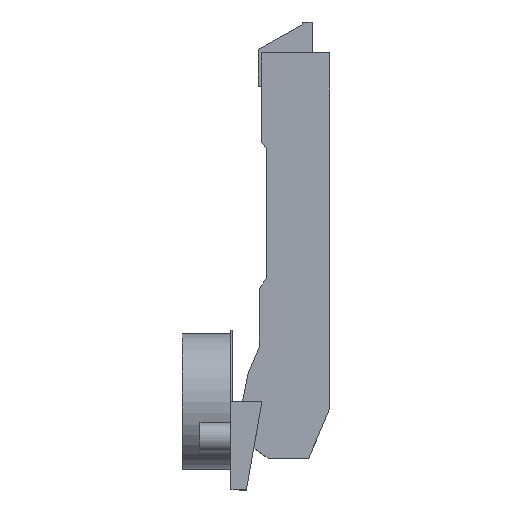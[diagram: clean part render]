
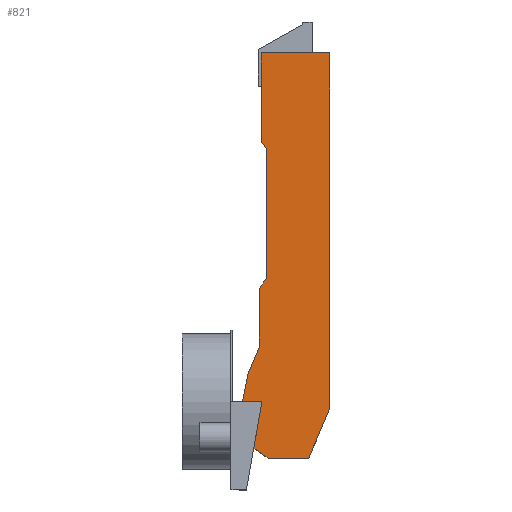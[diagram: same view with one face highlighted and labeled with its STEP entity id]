
A CAD part, top view. The second image highlights one B-rep face of the part: STEP entity #821.
In plain terms, the highlighted planar face has unit normal (0, 0, 1).
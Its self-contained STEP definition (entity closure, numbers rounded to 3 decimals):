
#14 = VERTEX_POINT ( 'NONE', #107 ) ;
#15 = VERTEX_POINT ( 'NONE', #108 ) ;
#16 = VERTEX_POINT ( 'NONE', #109 ) ;
#19 = VERTEX_POINT ( 'NONE', #112 ) ;
#20 = VERTEX_POINT ( 'NONE', #113 ) ;
#21 = VERTEX_POINT ( 'NONE', #114 ) ;
#25 = VERTEX_POINT ( 'NONE', #118 ) ;
#26 = VERTEX_POINT ( 'NONE', #119 ) ;
#27 = VERTEX_POINT ( 'NONE', #120 ) ;
#35 = VERTEX_POINT ( 'NONE', #128 ) ;
#37 = VERTEX_POINT ( 'NONE', #130 ) ;
#38 = VERTEX_POINT ( 'NONE', #131 ) ;
#39 = VERTEX_POINT ( 'NONE', #132 ) ;
#42 = VERTEX_POINT ( 'NONE', #135 ) ;
#45 = VERTEX_POINT ( 'NONE', #138 ) ;
#107 = CARTESIAN_POINT ( 'NONE',  ( -0.3, 0., 8.5 ) ) ;
#108 = CARTESIAN_POINT ( 'NONE',  ( 6.295, -14.594, 8.5 ) ) ;
#109 = CARTESIAN_POINT ( 'NONE',  ( 1.11, 7.296, 8.5 ) ) ;
#112 = CARTESIAN_POINT ( 'NONE',  ( 4.711, 0., 8.5 ) ) ;
#113 = CARTESIAN_POINT ( 'NONE',  ( 3.01, -12.294, 8.5 ) ) ;
#114 = CARTESIAN_POINT ( 'NONE',  ( 4.5, 90.1, 8.5 ) ) ;
#118 = CARTESIAN_POINT ( 'NONE',  ( 16.783, -14.594, 8.5 ) ) ;
#119 = CARTESIAN_POINT ( 'NONE',  ( 2.544, -12.294, 8.5 ) ) ;
#120 = CARTESIAN_POINT ( 'NONE',  ( 22.25, -1.744, 8.5 ) ) ;
#128 = CARTESIAN_POINT ( 'NONE',  ( 6., 65.1, 8.5 ) ) ;
#130 = CARTESIAN_POINT ( 'NONE',  ( 4.01, 29.266, 8.5 ) ) ;
#131 = CARTESIAN_POINT ( 'NONE',  ( 6., 32.108, 8.5 ) ) ;
#132 = CARTESIAN_POINT ( 'NONE',  ( 22.25, 90.1, 8.5 ) ) ;
#135 = CARTESIAN_POINT ( 'NONE',  ( 4.01, 14.096, 8.5 ) ) ;
#138 = CARTESIAN_POINT ( 'NONE',  ( 4.5, 67.242, 8.5 ) ) ;
#407 = CARTESIAN_POINT ( 'NONE',  ( -0.3, -12.294, 8.5 ) ) ;
#408 = PLANE ( 'NONE',  #1761 ) ;
#410 = DIRECTION ( 'NONE',  ( 0., 0., 1. ) ) ;
#411 = DIRECTION ( 'NONE',  ( 0., -1., 0. ) ) ;
#432 = CARTESIAN_POINT ( 'NONE',  ( 4.01, 29.266, 8.5 ) ) ;
#437 = CARTESIAN_POINT ( 'NONE',  ( 4.01, 14.096, 8.5 ) ) ;
#438 = DIRECTION ( 'NONE',  ( 0., -1., 0. ) ) ;
#440 = DIRECTION ( 'NONE',  ( -0.574, -0.819, 0. ) ) ;
#489 = CARTESIAN_POINT ( 'NONE',  ( 6.295, -14.594, 8.5 ) ) ;
#493 = DIRECTION ( 'NONE',  ( 1., 0., 0. ) ) ;
#494 = CARTESIAN_POINT ( 'NONE',  ( 3.01, -12.294, 8.5 ) ) ;
#495 = DIRECTION ( 'NONE',  ( 0.819, -0.574, 0. ) ) ;
#496 = CARTESIAN_POINT ( 'NONE',  ( 16.783, -14.594, 8.5 ) ) ;
#497 = DIRECTION ( 'NONE',  ( 0.392, 0.92, 0. ) ) ;
#570 = CARTESIAN_POINT ( 'NONE',  ( 4.5, 67.242, 8.5 ) ) ;
#590 = DIRECTION ( 'NONE',  ( 0., -1., 0. ) ) ;
#615 = CARTESIAN_POINT ( 'NONE',  ( 2.458, -12.78, 8.5 ) ) ;
#616 = DIRECTION ( 'NONE',  ( -0.174, -0.985, 0. ) ) ;
#636 = CARTESIAN_POINT ( 'NONE',  ( 22.25, -1.744, 8.5 ) ) ;
#643 = CARTESIAN_POINT ( 'NONE',  ( -0.3, 0., 8.5 ) ) ;
#644 = DIRECTION ( 'NONE',  ( -0.19, -0.982, 0. ) ) ;
#650 = DIRECTION ( 'NONE',  ( 0., 1., 0. ) ) ;
#651 = CARTESIAN_POINT ( 'NONE',  ( -0.3, -12.294, 8.5 ) ) ;
#652 = DIRECTION ( 'NONE',  ( 1., 0., 0. ) ) ;
#659 = CARTESIAN_POINT ( 'NONE',  ( 1.11, 7.296, 8.5 ) ) ;
#660 = DIRECTION ( 'NONE',  ( -0.392, -0.92, 0. ) ) ;
#691 = CARTESIAN_POINT ( 'NONE',  ( -0.3, 0., 8.5 ) ) ;
#692 = DIRECTION ( 'NONE',  ( 1., 0., 0. ) ) ;
#701 = CARTESIAN_POINT ( 'NONE',  ( 22.25, 90.1, 8.5 ) ) ;
#702 = DIRECTION ( 'NONE',  ( -1., 0., 0. ) ) ;
#712 = CARTESIAN_POINT ( 'NONE',  ( 6., 32.108, 8.5 ) ) ;
#713 = DIRECTION ( 'NONE',  ( 0., -1., 0. ) ) ;
#736 = CARTESIAN_POINT ( 'NONE',  ( 6., 65.1, 8.5 ) ) ;
#737 = DIRECTION ( 'NONE',  ( 0.574, -0.819, 0. ) ) ;
#821 = ADVANCED_FACE ( 'NONE', ( #1097 ), #408, .T. ) ;
#824 = VECTOR ( 'NONE', #737, 1000. ) ;
#825 = LINE ( 'NONE', #736, #824 ) ;
#842 = VECTOR ( 'NONE', #713, 1000. ) ;
#843 = LINE ( 'NONE', #712, #842 ) ;
#856 = VECTOR ( 'NONE', #702, 1000. ) ;
#863 = VECTOR ( 'NONE', #692, 1000. ) ;
#867 = LINE ( 'NONE', #701, #856 ) ;
#868 = LINE ( 'NONE', #691, #863 ) ;
#889 = VECTOR ( 'NONE', #660, 1000. ) ;
#890 = LINE ( 'NONE', #659, #889 ) ;
#897 = VECTOR ( 'NONE', #652, 1000. ) ;
#898 = LINE ( 'NONE', #651, #897 ) ;
#900 = VECTOR ( 'NONE', #650, 1000. ) ;
#905 = VECTOR ( 'NONE', #644, 1000. ) ;
#906 = LINE ( 'NONE', #643, #905 ) ;
#908 = LINE ( 'NONE', #636, #900 ) ;
#943 = VECTOR ( 'NONE', #616, 1000. ) ;
#948 = LINE ( 'NONE', #615, #943 ) ;
#956 = LINE ( 'NONE', #570, #964 ) ;
#964 = VECTOR ( 'NONE', #590, 1000. ) ;
#1032 = VECTOR ( 'NONE', #497, 1000. ) ;
#1033 = LINE ( 'NONE', #496, #1032 ) ;
#1034 = VECTOR ( 'NONE', #495, 1000. ) ;
#1035 = LINE ( 'NONE', #494, #1034 ) ;
#1037 = VECTOR ( 'NONE', #493, 1000. ) ;
#1042 = LINE ( 'NONE', #489, #1037 ) ;
#1074 = VECTOR ( 'NONE', #440, 1000. ) ;
#1076 = LINE ( 'NONE', #432, #1074 ) ;
#1080 = VECTOR ( 'NONE', #438, 1000. ) ;
#1083 = LINE ( 'NONE', #437, #1080 ) ;
#1097 = FACE_OUTER_BOUND ( 'NONE', #1158, .T. ) ;
#1158 = EDGE_LOOP ( 'NONE', ( #1261, #1262, #1263, #1264, #1266, #1265, #1270, #1267, #1268, #1269, #1503, #1502, #1501, #1500, #1499 ) ) ;
#1261 = ORIENTED_EDGE ( 'NONE', *, *, #1676, .T. ) ;
#1262 = ORIENTED_EDGE ( 'NONE', *, *, #1726, .T. ) ;
#1263 = ORIENTED_EDGE ( 'NONE', *, *, #1652, .T. ) ;
#1264 = ORIENTED_EDGE ( 'NONE', *, *, #1687, .T. ) ;
#1265 = ORIENTED_EDGE ( 'NONE', *, *, #1577, .T. ) ;
#1266 = ORIENTED_EDGE ( 'NONE', *, *, #1579, .T. ) ;
#1267 = ORIENTED_EDGE ( 'NONE', *, *, #1684, .T. ) ;
#1268 = ORIENTED_EDGE ( 'NONE', *, *, #1732, .T. ) ;
#1269 = ORIENTED_EDGE ( 'NONE', *, *, #1635, .T. ) ;
#1270 = ORIENTED_EDGE ( 'NONE', *, *, #1583, .T. ) ;
#1499 = ORIENTED_EDGE ( 'NONE', *, *, #1694, .T. ) ;
#1500 = ORIENTED_EDGE ( 'NONE', *, *, #1549, .T. ) ;
#1501 = ORIENTED_EDGE ( 'NONE', *, *, #1550, .T. ) ;
#1502 = ORIENTED_EDGE ( 'NONE', *, *, #1749, .T. ) ;
#1503 = ORIENTED_EDGE ( 'NONE', *, *, #1775, .T. ) ;
#1549 = EDGE_CURVE ( 'NONE', #37, #42, #1083, .T. ) ;
#1550 = EDGE_CURVE ( 'NONE', #38, #37, #1076, .T. ) ;
#1577 = EDGE_CURVE ( 'NONE', #15, #25, #1042, .T. ) ;
#1579 = EDGE_CURVE ( 'NONE', #20, #15, #1035, .T. ) ;
#1583 = EDGE_CURVE ( 'NONE', #25, #27, #1033, .T. ) ;
#1635 = EDGE_CURVE ( 'NONE', #21, #45, #956, .T. ) ;
#1652 = EDGE_CURVE ( 'NONE', #19, #26, #948, .T. ) ;
#1676 = EDGE_CURVE ( 'NONE', #16, #14, #906, .T. ) ;
#1684 = EDGE_CURVE ( 'NONE', #27, #39, #908, .T. ) ;
#1687 = EDGE_CURVE ( 'NONE', #26, #20, #898, .T. ) ;
#1694 = EDGE_CURVE ( 'NONE', #42, #16, #890, .T. ) ;
#1726 = EDGE_CURVE ( 'NONE', #14, #19, #868, .T. ) ;
#1732 = EDGE_CURVE ( 'NONE', #39, #21, #867, .T. ) ;
#1749 = EDGE_CURVE ( 'NONE', #35, #38, #843, .T. ) ;
#1761 = AXIS2_PLACEMENT_3D ( 'NONE', #407, #410, #411 ) ;
#1775 = EDGE_CURVE ( 'NONE', #45, #35, #825, .T. ) ;
